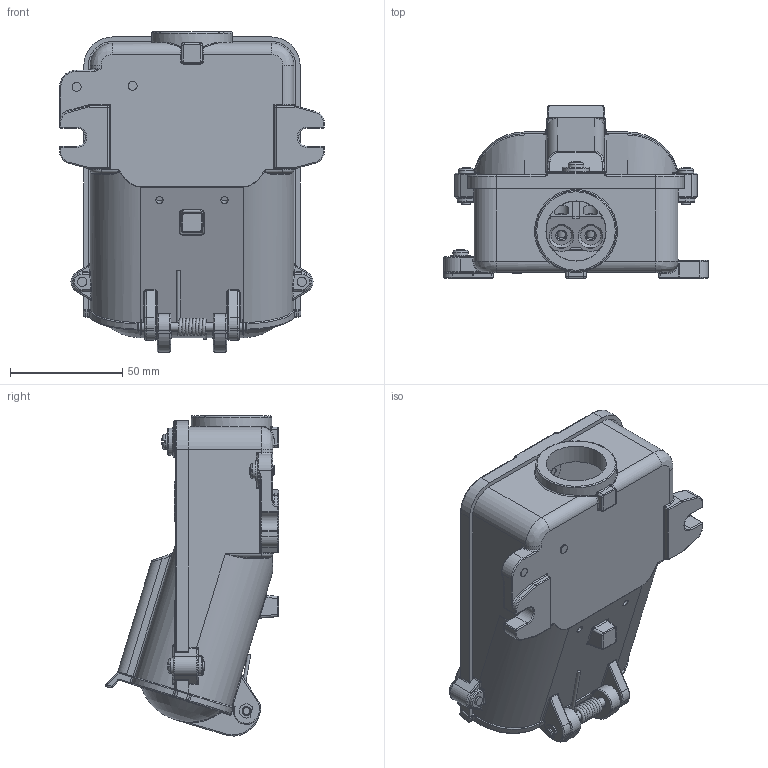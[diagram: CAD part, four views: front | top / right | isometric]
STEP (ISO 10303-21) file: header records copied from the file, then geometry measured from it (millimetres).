
FILE_DESCRIPTION(('Tomada Fixa 25A DIN 49450'),'2;1');
FILE_NAME('E:\WorkFolder\Bibl\3DWeb\Serie\PN\kp_pn_pnf25_step.stp','2022-06-09T16:01:25',('DIE'),('KAP Componentes Eletricos Ltda.'),'Autodesk Inventor 2011','Autodesk Inventor 2011','Direitos reservados. Proibido reproducao, cedencia ou revelacao de conteudo a terceiros, salvo com autorizacao.');
FILE_SCHEMA(('AUTOMOTIVE_DESIGN { 1 0 10303 214 1 1 1 1 }'));
Length unit declared in the file: millimetre
Products named in the file (1): Part7
Bounding box: 118 x 77.18 x 142.81 mm (x, y, z)
Volume: 202319.5 mm3; surface area: 113618.3 mm2
Topology: 29 solids, 37 shells, 2503 faces, 6463 edges, 4000 vertices
Faces by surface type: plane 1112, cylinder 700, bspline 244, torus 182, cone 175, sphere 90
Full cylindrical faces by diameter (mm): 1.5 x3, 2.3 x2, 3.242 x15, 3.4 x15, 3.969 x3, 4 x21, 4.3 x3, 4.5 x4, 4.7 x3, 5 x2, 5.2 x1, 6 x3, 6.3 x1, 6.4 x4, 7.937 x4, 9 x7, 9.5 x2, 11 x4, 12 x1, 13.5 x2, 18 x1, 26.8 x1, 36 x1
Entity records: 85678 total; most frequent: CARTESIAN_POINT 24441, DIRECTION 12178, ORIENTED_EDGE 12122, EDGE_CURVE 6061, AXIS2_PLACEMENT_3D 4660, VERTEX_POINT 3897, VECTOR 2858, LINE 2858
